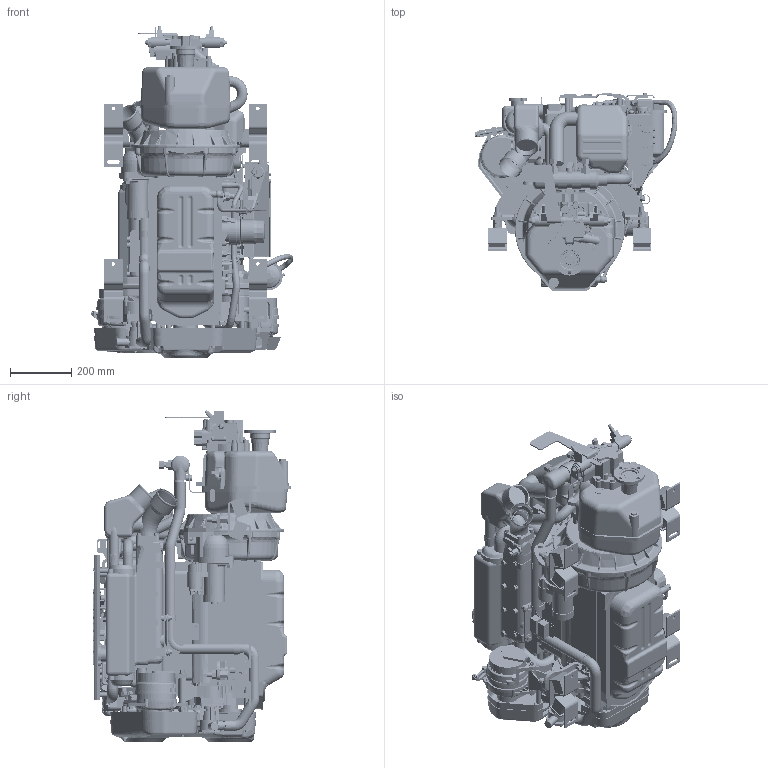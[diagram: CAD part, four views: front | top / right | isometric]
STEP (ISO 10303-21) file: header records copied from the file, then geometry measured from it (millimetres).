
FILE_DESCRIPTION((''),'2;1');
FILE_NAME('00_4JH45-57_ASM','2018-10-09T',('ib46307'),(''),'PRO/ENGINEER BY PARAMETRIC TECHNOLOGY CORPORATION, 2015360','PRO/ENGINEER BY PARAMETRIC TECHNOLOGY CORPORATION, 2015360','');
FILE_SCHEMA(('CONFIG_CONTROL_DESIGN'));
Products named in the file (128): D29C00-01100-4JH57-SW01-L_1; D29677-01210-SW01-L_1; D29677-01280-SW01_1; D29675-01300-SW01-L_1; D29670-01410-4JH57-SW01-L_1; D29677-01910-SW01-L_1; D29055-07300-1-4JH100-SW01_1; MANIFOLD_SOLID_BREP_99926; MANIFOLD_SOLID_BREP_101076; MANIFOLD_SOLID_BREP_102226; MANIFOLD_SOLID_BREP_103378; MANIFOLD_SOLID_BREP_104544; D29675-11100-SW01-L_1_ASM; D29675-11200-SW01-L_1; D29677-12100-SW01-L_1; D29619-12150-4JH57-SW01_1; MANIFOLD_SOLID_BREP_143382; MANIFOLD_SOLID_BREP_144651; D29677-21200-SW01-L_1_ASM; D29675-21300-SW01-L_1; D29A00-21700-4JH57-SW01_1; D29675-35200-SW01-L_1; D29677-39100-SW01_1; D29677-42300-SW01-L_1; MANIFOLD_SOLID_BREP_191880; MANIFOLD_SOLID_BREP_192042; D29470-49300-SW01_1_ASM; D29A00-51100-4JH110-SW01-L_1; MANIFOLD_SOLID_BREP_238151; MANIFOLD_SOLID_BREP_240293; MANIFOLD_SOLID_BREP_242436; MANIFOLD_SOLID_BREP_244581; D29675-53100-SW01_1_ASM; D29677-57110-SW01-L_1; MANIFOLD_SOLID_BREP_259652; MANIFOLD_SOLID_BREP_261683; MANIFOLD_SOLID_BREP_263714; D29677-59100-SW01-L_1_ASM; D29677-59350-SW01-L_1; B2-29675-090X-L_ASM_1_ASM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
Assembly tree (127 placements, depth 7):
  00_4JH45-57_ASM
    00_BASE_ASM
      PUB-4JH57_ASM_1_ASM
        B2-29675-001X-L_ASM_1_ASM
          B2-29675-090X-L_ASM_1_ASM
            D29C00-01100-4JH57-SW01-L_1
            D29677-01210-SW01-L_1
            D29677-01280-SW01_1
            D29675-01300-SW01-L_1
            D29670-01410-4JH57-SW01-L_1
            D29677-01910-SW01-L_1
            D29055-07300-1-4JH100-SW01_1
            D29675-11100-SW01-L_1_ASM
              MANIFOLD_SOLID_BREP_99926
              MANIFOLD_SOLID_BREP_101076
              MANIFOLD_SOLID_BREP_102226
              MANIFOLD_SOLID_BREP_103378
              MANIFOLD_SOLID_BREP_104544
            D29675-11200-SW01-L_1
            D29677-12100-SW01-L_1
            D29619-12150-4JH57-SW01_1
            D29677-21200-SW01-L_1_ASM
              MANIFOLD_SOLID_BREP_143382
              MANIFOLD_SOLID_BREP_144651
            D29675-21300-SW01-L_1
            D29A00-21700-4JH57-SW01_1
            D29675-35200-SW01-L_1
            D29677-39100-SW01_1
            D29677-42300-SW01-L_1
            D29470-49300-SW01_1_ASM
              MANIFOLD_SOLID_BREP_191880
              MANIFOLD_SOLID_BREP_192042
            D29A00-51100-4JH110-SW01-L_1
            D29675-53100-SW01_1_ASM
              MANIFOLD_SOLID_BREP_238151
              MANIFOLD_SOLID_BREP_240293
              MANIFOLD_SOLID_BREP_242436
              MANIFOLD_SOLID_BREP_244581
            D29677-57110-SW01-L_1
            D29677-59100-SW01-L_1_ASM
              MANIFOLD_SOLID_BREP_259652
              MANIFOLD_SOLID_BREP_261683
              MANIFOLD_SOLID_BREP_263714
            D29677-59350-SW01-L_1
          D29675-03100-SW01-L_1
          D29675-08100-SW01_1_ASM
            MANIFOLD_SOLID_BREP_277529
            MANIFOLD_SOLID_BREP_284870
            MANIFOLD_SOLID_BREP_286621
            MANIFOLD_SOLID_BREP_288372
          D29677-09220-SW01-L_2
          D29670-12330-4JH57-SW01-L_1
          D29271-34110-4JH57-SW01-L_1_ASM
            MANIFOLD_SOLID_BREP_341030
            MANIFOLD_SOLID_BREP_342336
          D29675-42200-SW01-L_1
          D29675-42500-SW01-L_1
          D29677-42350-SW01-L_1
          D29670-44210-4JH57-SW01-L_1
          D29670-49120-4JH57-SW01-L_1
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Bounding box: 660.33 x 645.07 x 1080.09 mm (x, y, z)
Volume: 123283529.3 mm3; surface area: 9567305.4 mm2
Topology: 88 solids, 103 shells, 16546 faces, 44177 edges, 28514 vertices
Faces by surface type: plane 6781, cylinder 5332, bspline 2144, torus 1118, cone 839, sphere 290, extrusion 40, revolution 2
Entity records: 735279 total; most frequent: CARTESIAN_POINT 333852, ORIENTED_EDGE 87770, DIRECTION 78455, EDGE_CURVE 43885, AXIS2_PLACEMENT_3D 29325, VERTEX_POINT 28513, VECTOR 19803, LINE 19763
